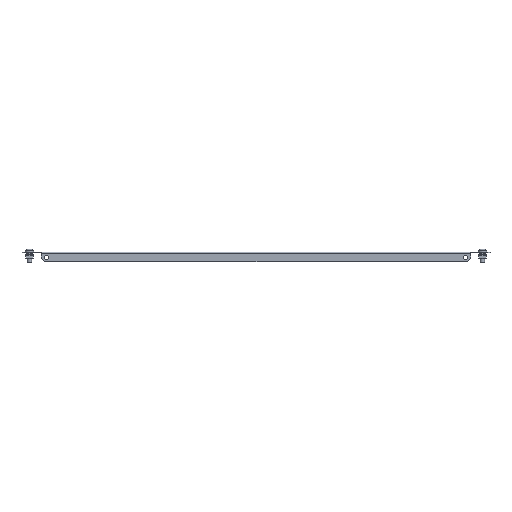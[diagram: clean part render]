
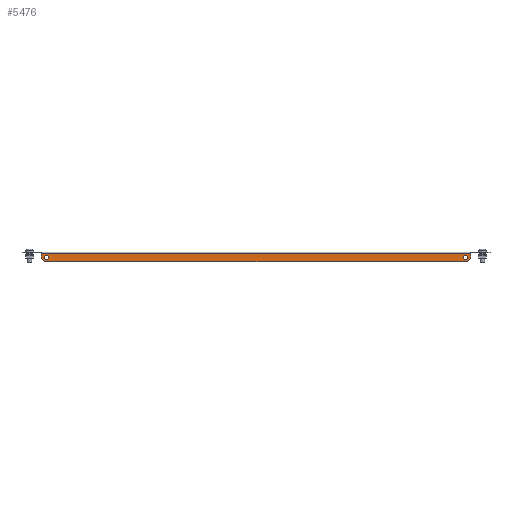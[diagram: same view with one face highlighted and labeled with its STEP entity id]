
A CAD part, front view. The second image highlights one B-rep face of the part: STEP entity #5476.
In plain terms, the highlighted planar face has unit normal (0, -1, 0).
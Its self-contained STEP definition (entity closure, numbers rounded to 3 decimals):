
#71 = CARTESIAN_POINT ( 'NONE',  ( -315., -49.5, 0. ) ) ;
#137 = CARTESIAN_POINT ( 'NONE',  ( 315., -49.5, 0. ) ) ;
#223 = CARTESIAN_POINT ( 'NONE',  ( -307., -49.5, -4.75 ) ) ;
#715 = CARTESIAN_POINT ( 'NONE',  ( -310., -49.5, -14. ) ) ;
#776 = EDGE_LOOP ( 'NONE', ( #3860 ) ) ;
#784 = LINE ( 'NONE', #71, #7029 ) ;
#809 = DIRECTION ( 'NONE',  ( 0., 1., 0. ) ) ;
#957 = PLANE ( 'NONE',  #2822 ) ;
#1115 = DIRECTION ( 'NONE',  ( 0.707, 0., -0.707 ) ) ;
#1203 = EDGE_LOOP ( 'NONE', ( #6193, #3311, #3341, #4560, #5756, #1878 ) ) ;
#1506 = VECTOR ( 'NONE', #5703, 1000. ) ;
#1715 = VERTEX_POINT ( 'NONE', #2198 ) ;
#1790 = CARTESIAN_POINT ( 'NONE',  ( -315., -49.5, -9. ) ) ;
#1878 = ORIENTED_EDGE ( 'NONE', *, *, #3002, .T. ) ;
#1953 = EDGE_CURVE ( 'NONE', #6390, #1715, #4231, .T. ) ;
#1966 = CIRCLE ( 'NONE', #2930, 3.25 ) ;
#2121 = LINE ( 'NONE', #4427, #2836 ) ;
#2181 = DIRECTION ( 'NONE',  ( 0.707, 0., 0.707 ) ) ;
#2198 = CARTESIAN_POINT ( 'NONE',  ( 315., -49.5, -9. ) ) ;
#2232 = ORIENTED_EDGE ( 'NONE', *, *, #4216, .F. ) ;
#2499 = DIRECTION ( 'NONE',  ( 0., 0., -1. ) ) ;
#2681 = VECTOR ( 'NONE', #2181, 1000. ) ;
#2714 = DIRECTION ( 'NONE',  ( 0., -1., 0. ) ) ;
#2745 = CARTESIAN_POINT ( 'NONE',  ( 162., -49.5, -162. ) ) ;
#2799 = LINE ( 'NONE', #2839, #1506 ) ;
#2818 = VERTEX_POINT ( 'NONE', #715 ) ;
#2822 = AXIS2_PLACEMENT_3D ( 'NONE', #5582, #2714, #4455 ) ;
#2836 = VECTOR ( 'NONE', #3618, 1000. ) ;
#2839 = CARTESIAN_POINT ( 'NONE',  ( 0., -49.5, -2. ) ) ;
#2920 = VECTOR ( 'NONE', #1115, 1000. ) ;
#2930 = AXIS2_PLACEMENT_3D ( 'NONE', #7080, #809, #5471 ) ;
#2954 = LINE ( 'NONE', #137, #5325 ) ;
#3002 = EDGE_CURVE ( 'NONE', #3205, #2818, #4006, .T. ) ;
#3098 = EDGE_CURVE ( 'NONE', #1715, #6475, #2954, .T. ) ;
#3140 = CARTESIAN_POINT ( 'NONE',  ( -315., -49.5, -2. ) ) ;
#3205 = VERTEX_POINT ( 'NONE', #1790 ) ;
#3311 = ORIENTED_EDGE ( 'NONE', *, *, #1953, .T. ) ;
#3314 = FACE_BOUND ( 'NONE', #776, .T. ) ;
#3341 = ORIENTED_EDGE ( 'NONE', *, *, #3098, .T. ) ;
#3618 = DIRECTION ( 'NONE',  ( 1., 0., 0. ) ) ;
#3657 = EDGE_CURVE ( 'NONE', #4746, #4746, #1966, .T. ) ;
#3804 = CARTESIAN_POINT ( 'NONE',  ( 315., -49.5, -2. ) ) ;
#3851 = CARTESIAN_POINT ( 'NONE',  ( -162., -49.5, -162. ) ) ;
#3860 = ORIENTED_EDGE ( 'NONE', *, *, #3657, .T. ) ;
#4006 = LINE ( 'NONE', #3851, #2920 ) ;
#4216 = EDGE_CURVE ( 'NONE', #4890, #4890, #4499, .T. ) ;
#4231 = LINE ( 'NONE', #2745, #2681 ) ;
#4427 = CARTESIAN_POINT ( 'NONE',  ( 0., -49.5, -14. ) ) ;
#4455 = DIRECTION ( 'NONE',  ( 0., 0., 1. ) ) ;
#4499 = CIRCLE ( 'NONE', #7253, 3.25 ) ;
#4519 = EDGE_LOOP ( 'NONE', ( #2232 ) ) ;
#4560 = ORIENTED_EDGE ( 'NONE', *, *, #5025, .T. ) ;
#4746 = VERTEX_POINT ( 'NONE', #223 ) ;
#4768 = DIRECTION ( 'NONE',  ( 0., 0., 1. ) ) ;
#4890 = VERTEX_POINT ( 'NONE', #5417 ) ;
#5025 = EDGE_CURVE ( 'NONE', #6475, #6080, #2799, .T. ) ;
#5178 = DIRECTION ( 'NONE',  ( 0., -1., 0. ) ) ;
#5325 = VECTOR ( 'NONE', #4768, 1000. ) ;
#5417 = CARTESIAN_POINT ( 'NONE',  ( 307., -49.5, -4.75 ) ) ;
#5471 = DIRECTION ( 'NONE',  ( 0., 0., 1. ) ) ;
#5476 = ADVANCED_FACE ( 'NONE', ( #7222, #3314, #6673 ), #957, .T. ) ;
#5582 = CARTESIAN_POINT ( 'NONE',  ( 0., -49.5, 0. ) ) ;
#5634 = DIRECTION ( 'NONE',  ( 0., 0., 1. ) ) ;
#5667 = CARTESIAN_POINT ( 'NONE',  ( 307., -49.5, -8. ) ) ;
#5703 = DIRECTION ( 'NONE',  ( -1., 0., 0. ) ) ;
#5756 = ORIENTED_EDGE ( 'NONE', *, *, #5865, .T. ) ;
#5865 = EDGE_CURVE ( 'NONE', #6080, #3205, #784, .T. ) ;
#6080 = VERTEX_POINT ( 'NONE', #3140 ) ;
#6193 = ORIENTED_EDGE ( 'NONE', *, *, #6327, .T. ) ;
#6327 = EDGE_CURVE ( 'NONE', #2818, #6390, #2121, .T. ) ;
#6390 = VERTEX_POINT ( 'NONE', #6455 ) ;
#6455 = CARTESIAN_POINT ( 'NONE',  ( 310., -49.5, -14. ) ) ;
#6475 = VERTEX_POINT ( 'NONE', #3804 ) ;
#6673 = FACE_OUTER_BOUND ( 'NONE', #1203, .T. ) ;
#7029 = VECTOR ( 'NONE', #2499, 1000. ) ;
#7080 = CARTESIAN_POINT ( 'NONE',  ( -307., -49.5, -8. ) ) ;
#7222 = FACE_BOUND ( 'NONE', #4519, .T. ) ;
#7253 = AXIS2_PLACEMENT_3D ( 'NONE', #5667, #5178, #5634 ) ;
